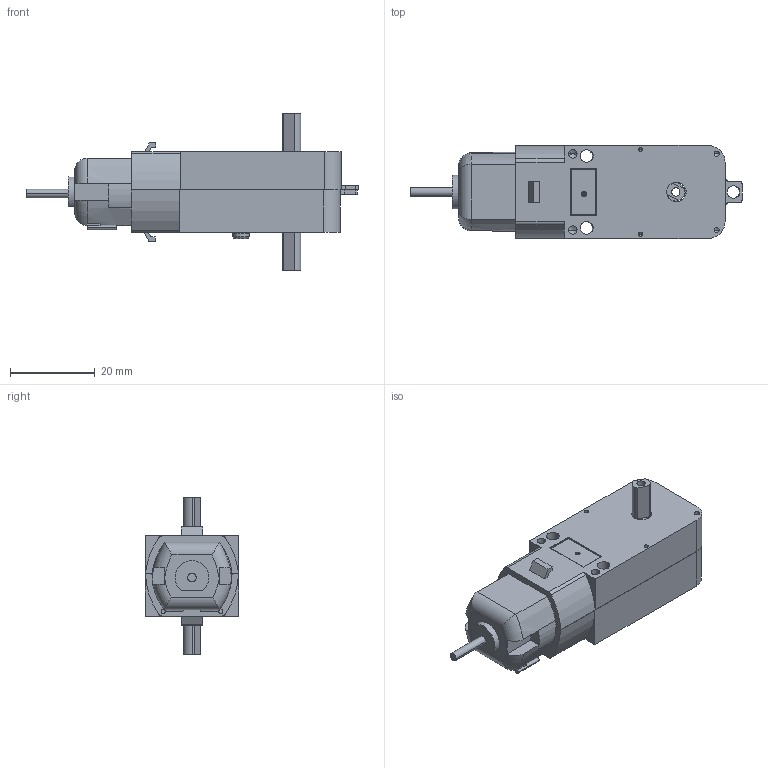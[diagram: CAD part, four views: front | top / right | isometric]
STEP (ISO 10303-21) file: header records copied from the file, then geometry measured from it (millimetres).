
FILE_DESCRIPTION((' '),'2;1');
FILE_NAME( 'DG01D.stp', '2026-06-02T04:42:51', (' '), ('--- ---'), ' V2026.1 Dec 31 2025', ' 2026 (c)', ' ');
FILE_SCHEMA(('AP242_MANAGED_MODEL_BASED_3D_ENGINEERING_MIM_LF { 1 0 10303 442 1 1 4 }'));
Length unit declared in the file: millimetre
Products named in the file (5): Yellow Casing 1; Yellow casing 2; Motor DC DG01D; Shaft DG01D; DG01D
Assembly tree (4 placements, depth 2):
  DG01D
    Yellow Casing 1
    Yellow casing 2
    Motor DC DG01D
    Shaft DG01D
Bounding box: 78.5 x 22 x 37 mm (x, y, z)
Volume: 16981.7 mm3; surface area: 11832.9 mm2
Topology: 5 solids, 5 shells, 254 faces, 664 edges, 406 vertices
Faces by surface type: cylinder 116, plane 96, cone 28, torus 14
Entity records: 9293 total; most frequent: CARTESIAN_POINT 2379, DIRECTION 1373, ORIENTED_EDGE 1276, EDGE_CURVE 636, AXIS2_PLACEMENT_3D 508, VERTEX_POINT 406, VECTOR 357, LINE 357
